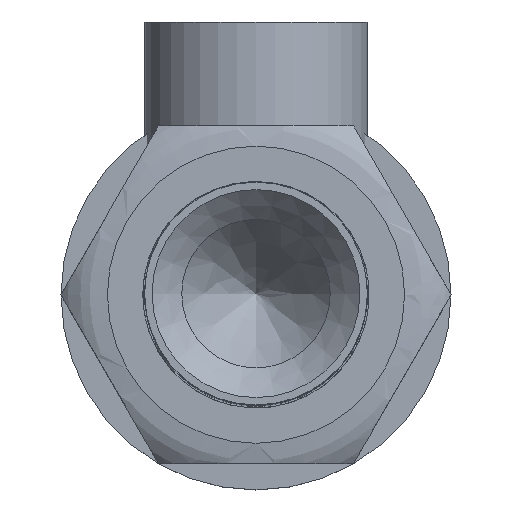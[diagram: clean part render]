
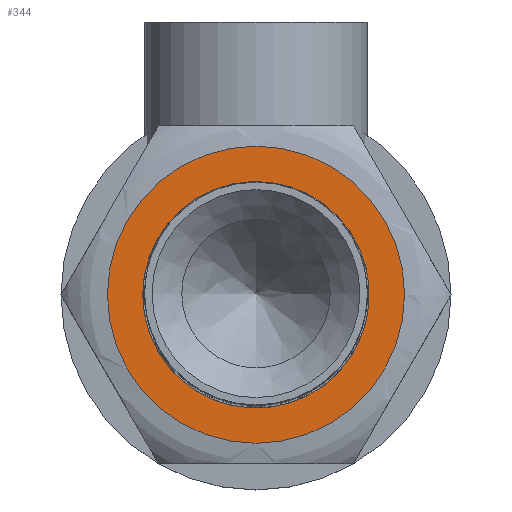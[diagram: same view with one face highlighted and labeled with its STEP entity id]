
A CAD part, top view. The second image highlights one B-rep face of the part: STEP entity #344.
In plain terms, the highlighted planar face has unit normal (0, 0, 1).
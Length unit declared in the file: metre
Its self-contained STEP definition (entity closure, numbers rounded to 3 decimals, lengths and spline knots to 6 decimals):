
#344 = ADVANCED_FACE( '', ( #430, #431 ), #432, .F. );
#430 = FACE_BOUND( '', #568, .T. );
#431 = FACE_OUTER_BOUND( '', #569, .T. );
#432 = PLANE( '', #570 );
#568 = EDGE_LOOP( '', ( #841 ) );
#569 = EDGE_LOOP( '', ( #842 ) );
#570 = AXIS2_PLACEMENT_3D( '', #843, #844, #845 );
#841 = ORIENTED_EDGE( '', *, *, #1050, .T. );
#842 = ORIENTED_EDGE( '', *, *, #1044, .F. );
#843 = CARTESIAN_POINT( '', ( 0., 0.090933, 0.03 ) );
#844 = DIRECTION( '', ( 0., 0., -1. ) );
#845 = DIRECTION( '', ( -1., 0., 0. ) );
#1044 = EDGE_CURVE( '', #1162, #1162, #1163, .T. );
#1050 = EDGE_CURVE( '', #1172, #1172, #1173, .T. );
#1162 = VERTEX_POINT( '', #1492 );
#1163 = CIRCLE( '', #1493, 0.04 );
#1172 = VERTEX_POINT( '', #1645 );
#1173 = CIRCLE( '', #1646, 0.0305 );
#1492 = CARTESIAN_POINT( '', ( -0.04, 0., 0.03 ) );
#1493 = AXIS2_PLACEMENT_3D( '', #1773, #1774, #1775 );
#1645 = CARTESIAN_POINT( '', ( 0.0305, 0., 0.03 ) );
#1646 = AXIS2_PLACEMENT_3D( '', #1776, #1777, #1778 );
#1773 = CARTESIAN_POINT( '', ( 0., 0., 0.03 ) );
#1774 = DIRECTION( '', ( 0., 0., -1. ) );
#1775 = DIRECTION( '', ( -1., 0., 0. ) );
#1776 = CARTESIAN_POINT( '', ( 0., 0., 0.03 ) );
#1777 = DIRECTION( '', ( 0., 0., -1. ) );
#1778 = DIRECTION( '', ( 1., 0., 0. ) );
